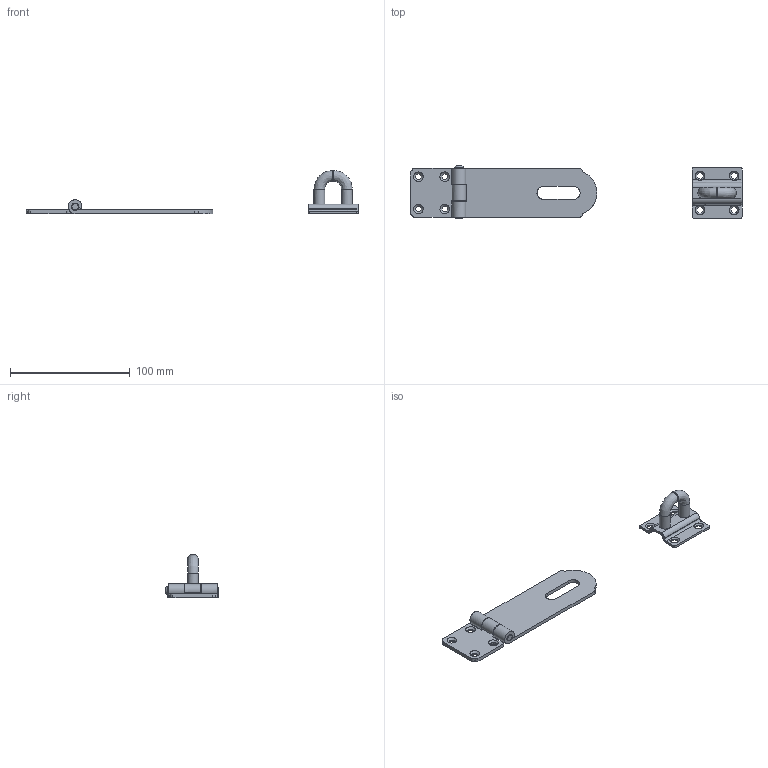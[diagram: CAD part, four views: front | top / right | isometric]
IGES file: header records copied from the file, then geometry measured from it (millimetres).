
Global section: file name: DR_GS1-8; native system: Autodesk Inventor 2015; preprocessor: unknown; author: CH.J; date: 20170831.101930; units: millimetre
Bounding box: 277.17 x 43.5 x 35.98 mm (x, y, z)
Volume: 28053.4 mm3; surface area: 21695.4 mm2
Topology: 4 solids, 4 shells, 120 faces, 306 edges, 194 vertices
Faces by surface type: bspline 120
